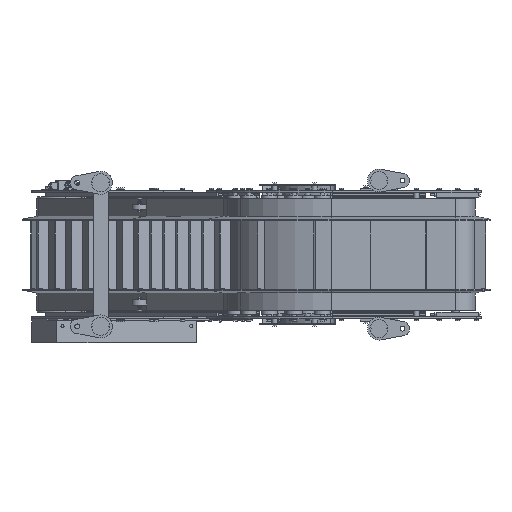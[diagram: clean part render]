
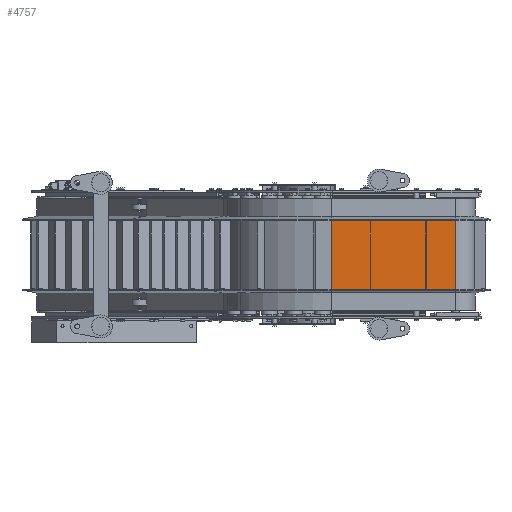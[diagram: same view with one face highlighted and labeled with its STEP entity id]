
A CAD part, front view. The second image highlights one B-rep face of the part: STEP entity #4757.
In plain terms, the highlighted planar face has unit normal (-0.009, -1, 0).
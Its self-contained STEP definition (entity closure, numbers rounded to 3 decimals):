
#4757=ADVANCED_FACE('',(#30333,#30334,#30335),#30332,.F.);
#30332=PLANE('',#50309);
#30333=FACE_OUTER_BOUND('',#50310,.T.);
#30334=FACE_BOUND('',#50311,.T.);
#30335=FACE_BOUND('',#50312,.T.);
#50306=CARTESIAN_POINT('',(1127.92,-2079.263,-110.));
#50307=DIRECTION('',(0.008,1.,0.));
#50308=DIRECTION('',(-1.,0.008,0.));
#50309=AXIS2_PLACEMENT_3D('',#50306,#50307,#50308);
#50310=EDGE_LOOP('',(#65121,#65122,#65123,#65124));
#50311=EDGE_LOOP('',(#65125,#65126,#65127,#65128));
#50312=EDGE_LOOP('',(#65129,#65130,#65131,#65132));
#65121=ORIENTED_EDGE('',*,*,#73677,.T.);
#65122=ORIENTED_EDGE('',*,*,#73470,.F.);
#65123=ORIENTED_EDGE('',*,*,#73676,.F.);
#65124=ORIENTED_EDGE('',*,*,#73408,.T.);
#65125=ORIENTED_EDGE('',*,*,#73276,.T.);
#65126=ORIENTED_EDGE('',*,*,#73268,.F.);
#65127=ORIENTED_EDGE('',*,*,#73272,.F.);
#65128=ORIENTED_EDGE('',*,*,#73260,.T.);
#65129=ORIENTED_EDGE('',*,*,#73277,.F.);
#65130=ORIENTED_EDGE('',*,*,#73265,.T.);
#65131=ORIENTED_EDGE('',*,*,#73086,.T.);
#65132=ORIENTED_EDGE('',*,*,#73263,.F.);
#73086=EDGE_CURVE('',#110750,#110743,#110751,.T.);
#73260=EDGE_CURVE('',#111945,#111938,#111946,.T.);
#73263=EDGE_CURVE('',#111958,#110743,#111965,.T.);
#73265=EDGE_CURVE('',#111971,#110750,#111978,.T.);
#73268=EDGE_CURVE('',#111991,#111984,#111998,.T.);
#73272=EDGE_CURVE('',#111945,#111991,#112024,.T.);
#73276=EDGE_CURVE('',#111938,#111984,#112050,.T.);
#73277=EDGE_CURVE('',#111971,#111958,#112056,.T.);
#73408=EDGE_CURVE('',#112903,#112949,#112956,.T.);
#73470=EDGE_CURVE('',#113313,#113359,#113360,.T.);
#73676=EDGE_CURVE('',#112903,#113313,#114653,.T.);
#73677=EDGE_CURVE('',#112949,#113359,#114659,.T.);
#110743=VERTEX_POINT('',#144500);
#110750=VERTEX_POINT('',#144504);
#110751=LINE('',#144505,#144506);
#111938=VERTEX_POINT('',#145196);
#111945=VERTEX_POINT('',#145200);
#111946=LINE('',#145201,#145202);
#111958=VERTEX_POINT('',#145207);
#111965=LINE('',#145211,#145212);
#111971=VERTEX_POINT('',#145214);
#111978=LINE('',#145218,#145219);
#111984=VERTEX_POINT('',#145221);
#111991=VERTEX_POINT('',#145225);
#111998=LINE('',#145229,#145230);
#112024=LINE('',#145243,#145244);
#112050=LINE('',#145257,#145258);
#112056=LINE('',#145260,#145261);
#112903=VERTEX_POINT('',#145743);
#112949=VERTEX_POINT('',#145771);
#112956=LINE('',#145775,#145776);
#113313=VERTEX_POINT('',#145979);
#113359=VERTEX_POINT('',#146005);
#113360=LINE('',#146006,#146007);
#114653=LINE('',#146708,#146709);
#114659=LINE('',#146711,#146712);
#144500=CARTESIAN_POINT('',(890.708,-2077.256,95.));
#144504=CARTESIAN_POINT('',(890.708,-2077.256,-95.));
#144505=CARTESIAN_POINT('',(890.708,-2077.256,-95.));
#144506=VECTOR('',#144507,190.);
#144507=DIRECTION('',(0.,0.,1.));
#145196=CARTESIAN_POINT('',(1039.303,-2078.513,-95.));
#145200=CARTESIAN_POINT('',(1040.503,-2078.523,-95.));
#145201=CARTESIAN_POINT('',(1040.503,-2078.523,-95.));
#145202=VECTOR('',#145203,1.2);
#145203=DIRECTION('',(-1.,0.008,0.));
#145207=CARTESIAN_POINT('',(891.908,-2077.267,95.));
#145211=CARTESIAN_POINT('',(891.908,-2077.267,95.));
#145212=VECTOR('',#145213,1.2);
#145213=DIRECTION('',(-1.,0.008,0.));
#145214=CARTESIAN_POINT('',(891.908,-2077.267,-95.));
#145218=CARTESIAN_POINT('',(891.908,-2077.267,-95.));
#145219=VECTOR('',#145220,1.2);
#145220=DIRECTION('',(-1.,0.008,0.));
#145221=CARTESIAN_POINT('',(1039.303,-2078.513,95.));
#145225=CARTESIAN_POINT('',(1040.503,-2078.523,95.));
#145229=CARTESIAN_POINT('',(1040.503,-2078.523,95.));
#145230=VECTOR('',#145231,1.2);
#145231=DIRECTION('',(-1.,0.008,0.));
#145243=CARTESIAN_POINT('',(1040.503,-2078.523,-95.));
#145244=VECTOR('',#145245,190.);
#145245=DIRECTION('',(0.,0.,1.));
#145257=CARTESIAN_POINT('',(1039.303,-2078.513,-95.));
#145258=VECTOR('',#145259,190.);
#145259=DIRECTION('',(0.,0.,1.));
#145260=CARTESIAN_POINT('',(891.908,-2077.267,-95.));
#145261=VECTOR('',#145262,190.);
#145262=DIRECTION('',(0.,0.,1.));
#145743=CARTESIAN_POINT('',(1117.92,-2079.178,100.));
#145771=CARTESIAN_POINT('',(785.829,-2076.369,100.));
#145775=CARTESIAN_POINT('',(1117.92,-2079.178,100.));
#145776=VECTOR('',#145777,332.103);
#145777=DIRECTION('',(-1.,0.008,0.));
#145979=CARTESIAN_POINT('',(1117.92,-2079.178,-100.));
#146005=CARTESIAN_POINT('',(785.829,-2076.369,-100.));
#146006=CARTESIAN_POINT('',(1117.92,-2079.178,-100.));
#146007=VECTOR('',#146008,332.103);
#146008=DIRECTION('',(-1.,0.008,0.));
#146708=CARTESIAN_POINT('',(1117.92,-2079.178,100.));
#146709=VECTOR('',#146710,200.);
#146710=DIRECTION('',(0.,0.,-1.));
#146711=CARTESIAN_POINT('',(785.829,-2076.369,100.));
#146712=VECTOR('',#146713,200.);
#146713=DIRECTION('',(0.,0.,-1.));
